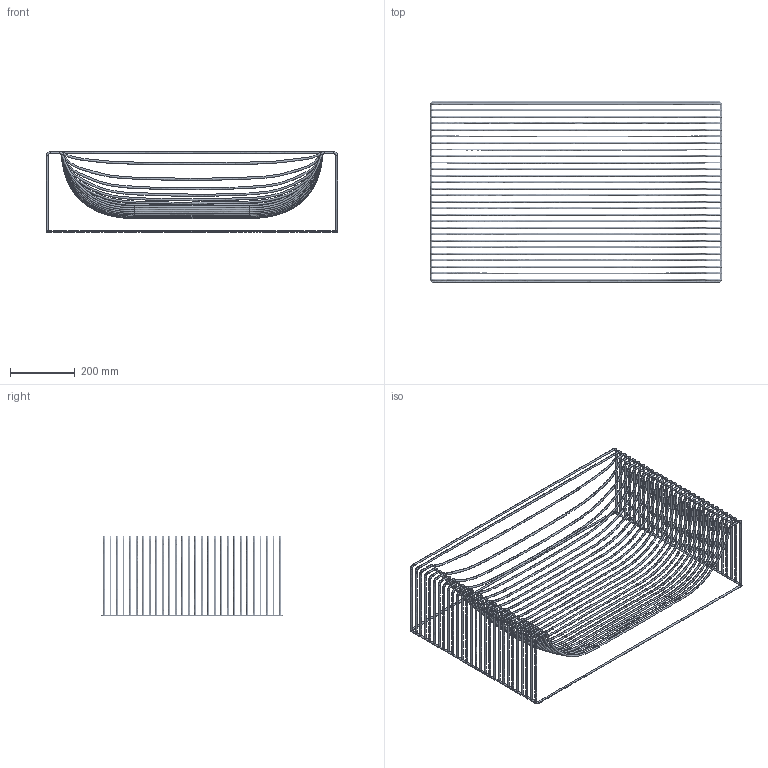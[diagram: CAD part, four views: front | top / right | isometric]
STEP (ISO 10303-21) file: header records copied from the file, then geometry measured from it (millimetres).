
FILE_DESCRIPTION(/* description */ (''),/* implementation_level */ '2;1');
FILE_NAME(/* name */ 'CUCCIA~2',/* time_stamp */ '2020-06-25T14:46:56+02:00',/* author */ (''),/* organization */ (''),/* preprocessor_version */ 'ST-DEVELOPER v16.5',/* originating_system */ '',/* authorisation */ '');
FILE_SCHEMA (('AUTOMOTIVE_DESIGN'));
Length unit declared in the file: millimetre
Products named in the file (1): Document
Bounding box: 900 x 560 x 250 mm (x, y, z)
Volume: 81712.7 mm3; surface area: 860303 mm2
Topology: 1 solids, 29 shells, 548 faces, 1152 edges, 604 vertices
Faces by surface type: bspline 548
Entity records: 54313 total; most frequent: CARTESIAN_POINT 48551, ORIENTED_EDGE 2192, EDGE_CURVE 1152, VERTEX_POINT 604, ADVANCED_FACE 548, FACE_OUTER_BOUND 548, EDGE_LOOP 548, B_SPLINE_CURVE_WITH_KNOTS 56
